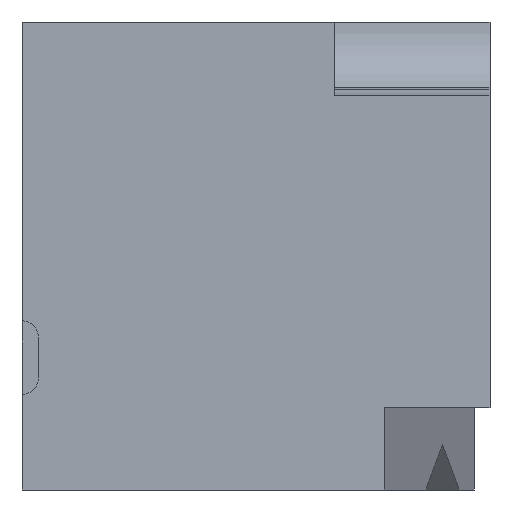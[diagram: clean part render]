
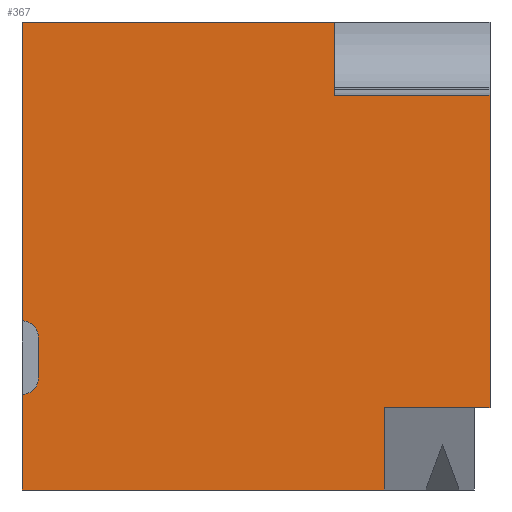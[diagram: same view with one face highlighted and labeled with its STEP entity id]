
A CAD part, front view. The second image highlights one B-rep face of the part: STEP entity #367.
In plain terms, the highlighted planar face has unit normal (0, -1, 0).
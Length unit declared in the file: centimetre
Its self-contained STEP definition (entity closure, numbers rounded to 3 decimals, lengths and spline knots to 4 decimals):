
#5 = FACE_OUTER_BOUND ( 'NONE', #359, .T. ) ;
#19 = DIRECTION ( 'NONE',  ( 0., 1., 0. ) ) ;
#24 = CARTESIAN_POINT ( 'NONE',  ( 668.3168, 0., 1000. ) ) ;
#26 = VERTEX_POINT ( 'NONE', #980 ) ;
#43 = CIRCLE ( 'NONE', #273, 35.3633 ) ;
#44 = VECTOR ( 'NONE', #151, 100. ) ;
#47 = ORIENTED_EDGE ( 'NONE', *, *, #63, .T. ) ;
#62 = VECTOR ( 'NONE', #120, 100. ) ;
#63 = EDGE_CURVE ( 'NONE', #934, #1031, #465, .T. ) ;
#67 = EDGE_CURVE ( 'NONE', #1056, #243, #43, .T. ) ;
#84 = ORIENTED_EDGE ( 'NONE', *, *, #531, .F. ) ;
#92 = EDGE_CURVE ( 'NONE', #322, #846, #419, .T. ) ;
#105 = DIRECTION ( 'NONE',  ( 0., 0., 1. ) ) ;
#120 = DIRECTION ( 'NONE',  ( 1., 0., 0. ) ) ;
#145 = ORIENTED_EDGE ( 'NONE', *, *, #304, .T. ) ;
#151 = DIRECTION ( 'NONE',  ( 0., 0., -1. ) ) ;
#157 = VECTOR ( 'NONE', #303, 100. ) ;
#166 = VERTEX_POINT ( 'NONE', #926 ) ;
#168 = CARTESIAN_POINT ( 'NONE',  ( 774.5694, 0., 176.2538 ) ) ;
#178 = ORIENTED_EDGE ( 'NONE', *, *, #217, .T. ) ;
#181 = CARTESIAN_POINT ( 'NONE',  ( 35.3633, 0., 326.1385 ) ) ;
#184 = VECTOR ( 'NONE', #901, 100. ) ;
#189 = CARTESIAN_POINT ( 'NONE',  ( 0., 0., 239.5052 ) ) ;
#201 = CARTESIAN_POINT ( 'NONE',  ( 0., 0., 0. ) ) ;
#217 = EDGE_CURVE ( 'NONE', #692, #934, #389, .T. ) ;
#218 = VECTOR ( 'NONE', #222, 100. ) ;
#222 = DIRECTION ( 'NONE',  ( -1., 0., 0. ) ) ;
#230 = ORIENTED_EDGE ( 'NONE', *, *, #92, .F. ) ;
#242 = VECTOR ( 'NONE', #627, 100. ) ;
#243 = VERTEX_POINT ( 'NONE', #258 ) ;
#245 = DIRECTION ( 'NONE',  ( -1., 0., 0. ) ) ;
#248 = EDGE_CURVE ( 'NONE', #900, #692, #824, .T. ) ;
#253 = DIRECTION ( 'NONE',  ( 0., 0., 1. ) ) ;
#254 = EDGE_CURVE ( 'NONE', #900, #1056, #954, .T. ) ;
#258 = CARTESIAN_POINT ( 'NONE',  ( 0., 0., 361.5018 ) ) ;
#263 = CARTESIAN_POINT ( 'NONE',  ( 1000., 0., 843.027 ) ) ;
#273 = AXIS2_PLACEMENT_3D ( 'NONE', #299, #815, #288 ) ;
#280 = CARTESIAN_POINT ( 'NONE',  ( 0., 0., 1000. ) ) ;
#288 = DIRECTION ( 'NONE',  ( 0., 0., 1. ) ) ;
#291 = VECTOR ( 'NONE', #253, 100. ) ;
#293 = PLANE ( 'NONE',  #725 ) ;
#299 = CARTESIAN_POINT ( 'NONE',  ( 0., 0., 326.1385 ) ) ;
#303 = DIRECTION ( 'NONE',  ( 0., 0., -1. ) ) ;
#304 = EDGE_CURVE ( 'NONE', #26, #243, #1036, .T. ) ;
#321 = CARTESIAN_POINT ( 'NONE',  ( 1000., 0., 1000. ) ) ;
#322 = VERTEX_POINT ( 'NONE', #263 ) ;
#358 = ORIENTED_EDGE ( 'NONE', *, *, #67, .F. ) ;
#359 = EDGE_LOOP ( 'NONE', ( #47, #524, #946, #230, #966, #413, #84, #145, #358, #684, #653, #178 ) ) ;
#367 = ADVANCED_FACE ( 'NONE', ( #5 ), #293, .F. ) ;
#374 = CARTESIAN_POINT ( 'NONE',  ( 0., 0., 0. ) ) ;
#375 = VECTOR ( 'NONE', #245, 100. ) ;
#387 = LINE ( 'NONE', #168, #375 ) ;
#389 = LINE ( 'NONE', #996, #44 ) ;
#413 = ORIENTED_EDGE ( 'NONE', *, *, #466, .F. ) ;
#419 = LINE ( 'NONE', #321, #157 ) ;
#443 = VERTEX_POINT ( 'NONE', #563 ) ;
#454 = CARTESIAN_POINT ( 'NONE',  ( 774.5694, 0., 176.2538 ) ) ;
#465 = LINE ( 'NONE', #374, #62 ) ;
#466 = EDGE_CURVE ( 'NONE', #166, #443, #1057, .T. ) ;
#493 = CARTESIAN_POINT ( 'NONE',  ( 774.5694, 0., 0. ) ) ;
#498 = CARTESIAN_POINT ( 'NONE',  ( 0., 0., 1000. ) ) ;
#524 = ORIENTED_EDGE ( 'NONE', *, *, #890, .F. ) ;
#531 = EDGE_CURVE ( 'NONE', #26, #166, #935, .T. ) ;
#542 = EDGE_CURVE ( 'NONE', #322, #443, #841, .T. ) ;
#547 = DIRECTION ( 'NONE',  ( 0., 0., 1. ) ) ;
#563 = CARTESIAN_POINT ( 'NONE',  ( 668.3168, 0., 843.027 ) ) ;
#564 = CARTESIAN_POINT ( 'NONE',  ( 1000., 0., 176.2538 ) ) ;
#572 = AXIS2_PLACEMENT_3D ( 'NONE', #189, #19, #105 ) ;
#627 = DIRECTION ( 'NONE',  ( 0., 0., -1. ) ) ;
#653 = ORIENTED_EDGE ( 'NONE', *, *, #248, .T. ) ;
#663 = EDGE_CURVE ( 'NONE', #846, #1072, #387, .T. ) ;
#684 = ORIENTED_EDGE ( 'NONE', *, *, #254, .F. ) ;
#692 = VERTEX_POINT ( 'NONE', #706 ) ;
#700 = VECTOR ( 'NONE', #811, 100. ) ;
#706 = CARTESIAN_POINT ( 'NONE',  ( 0., 0., 204.1419 ) ) ;
#725 = AXIS2_PLACEMENT_3D ( 'NONE', #280, #895, #547 ) ;
#727 = CARTESIAN_POINT ( 'NONE',  ( 35.3633, 0., 239.5052 ) ) ;
#799 = CARTESIAN_POINT ( 'NONE',  ( 0., 0., 1000. ) ) ;
#811 = DIRECTION ( 'NONE',  ( 0., 0., -1. ) ) ;
#814 = LINE ( 'NONE', #454, #700 ) ;
#815 = DIRECTION ( 'NONE',  ( 0., -1., 0. ) ) ;
#824 = CIRCLE ( 'NONE', #572, 35.3633 ) ;
#832 = CARTESIAN_POINT ( 'NONE',  ( 35.3633, 0., 326.1385 ) ) ;
#837 = CARTESIAN_POINT ( 'NONE',  ( 774.5694, 0., 176.2538 ) ) ;
#841 = LINE ( 'NONE', #1074, #218 ) ;
#846 = VERTEX_POINT ( 'NONE', #564 ) ;
#890 = EDGE_CURVE ( 'NONE', #1072, #1031, #814, .T. ) ;
#895 = DIRECTION ( 'NONE',  ( 0., 1., 0. ) ) ;
#900 = VERTEX_POINT ( 'NONE', #727 ) ;
#901 = DIRECTION ( 'NONE',  ( 0., 0., -1. ) ) ;
#916 = DIRECTION ( 'NONE',  ( 1., 0., 0. ) ) ;
#926 = CARTESIAN_POINT ( 'NONE',  ( 668.3168, 0., 1000. ) ) ;
#934 = VERTEX_POINT ( 'NONE', #201 ) ;
#935 = LINE ( 'NONE', #498, #1073 ) ;
#946 = ORIENTED_EDGE ( 'NONE', *, *, #663, .F. ) ;
#954 = LINE ( 'NONE', #181, #291 ) ;
#966 = ORIENTED_EDGE ( 'NONE', *, *, #542, .T. ) ;
#980 = CARTESIAN_POINT ( 'NONE',  ( 0., 0., 1000. ) ) ;
#996 = CARTESIAN_POINT ( 'NONE',  ( 0., 0., 1000. ) ) ;
#1031 = VERTEX_POINT ( 'NONE', #493 ) ;
#1036 = LINE ( 'NONE', #799, #242 ) ;
#1056 = VERTEX_POINT ( 'NONE', #832 ) ;
#1057 = LINE ( 'NONE', #24, #184 ) ;
#1072 = VERTEX_POINT ( 'NONE', #837 ) ;
#1073 = VECTOR ( 'NONE', #916, 100. ) ;
#1074 = CARTESIAN_POINT ( 'NONE',  ( 668.3168, 0., 843.027 ) ) ;
